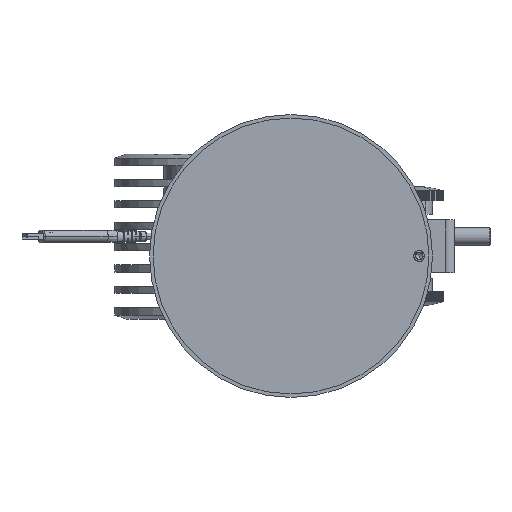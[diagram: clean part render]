
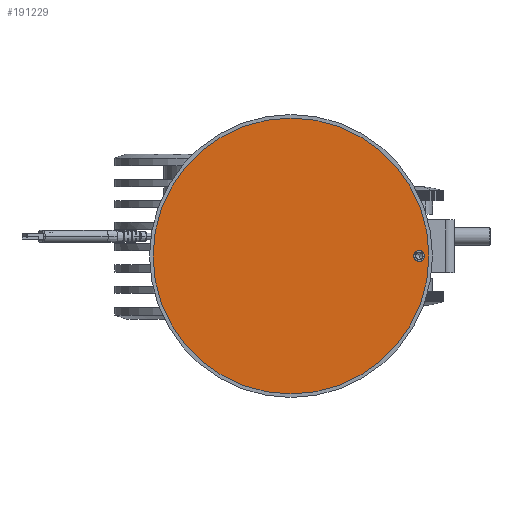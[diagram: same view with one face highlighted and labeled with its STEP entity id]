
A CAD part, front view. The second image highlights one B-rep face of the part: STEP entity #191229.
In plain terms, the highlighted planar face has unit normal (0, -1, 0).
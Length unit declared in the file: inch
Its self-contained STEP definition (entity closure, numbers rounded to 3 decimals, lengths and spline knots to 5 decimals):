
#2006 = VERTEX_POINT ( 'NONE', #40408 ) ;
#2010 = VERTEX_POINT ( 'NONE', #40415 ) ;
#2036 = VERTEX_POINT ( 'NONE', #40470 ) ;
#2049 = VERTEX_POINT ( 'NONE', #40497 ) ;
#8822 = ORIENTED_EDGE ( 'NONE', *, *, #109546, .F. ) ;
#8824 = ORIENTED_EDGE ( 'NONE', *, *, #109592, .F. ) ;
#8826 = ORIENTED_EDGE ( 'NONE', *, *, #109596, .T. ) ;
#8828 = ORIENTED_EDGE ( 'NONE', *, *, #109577, .T. ) ;
#30322 = EDGE_LOOP ( 'NONE', ( #8826, #8828 ) ) ;
#30324 = EDGE_LOOP ( 'NONE', ( #8822, #8824 ) ) ;
#40408 = CARTESIAN_POINT ( 'NONE',  ( 3.44375, -0.44, 0. ) ) ;
#40415 = CARTESIAN_POINT ( 'NONE',  ( 3.75625, -0.44, 0. ) ) ;
#40470 = CARTESIAN_POINT ( 'NONE',  ( -3.875, -0.44, 0. ) ) ;
#40497 = CARTESIAN_POINT ( 'NONE',  ( 3.875, -0.44, 0. ) ) ;
#58203 = AXIS2_PLACEMENT_3D ( 'NONE', #67542, #67543, #67544 ) ;
#59634 = AXIS2_PLACEMENT_3D ( 'NONE', #136119, #136124, #136127 ) ;
#59644 = AXIS2_PLACEMENT_3D ( 'NONE', #136283, #136286, #136291 ) ;
#59648 = AXIS2_PLACEMENT_3D ( 'NONE', #152347, #152349, #152352 ) ;
#59650 = AXIS2_PLACEMENT_3D ( 'NONE', #152358, #152360, #152362 ) ;
#67534 = PLANE ( 'NONE',  #58203 ) ;
#67542 = CARTESIAN_POINT ( 'NONE',  ( 0., -0.44, 0. ) ) ;
#67543 = DIRECTION ( 'NONE',  ( 0., -1., 0. ) ) ;
#67544 = DIRECTION ( 'NONE',  ( 1., 0., 0. ) ) ;
#68435 = FACE_BOUND ( 'NONE', #30324, .T. ) ;
#68443 = FACE_OUTER_BOUND ( 'NONE', #30322, .T. ) ;
#109546 = EDGE_CURVE ( 'NONE', #2006, #2010, #143467, .T. ) ;
#109577 = EDGE_CURVE ( 'NONE', #2036, #2049, #143516, .T. ) ;
#109592 = EDGE_CURVE ( 'NONE', #2010, #2006, #143524, .T. ) ;
#109596 = EDGE_CURVE ( 'NONE', #2049, #2036, #143533, .T. ) ;
#136119 = CARTESIAN_POINT ( 'NONE',  ( 3.6, -0.44, 0. ) ) ;
#136124 = DIRECTION ( 'NONE',  ( 0., -1., 0. ) ) ;
#136127 = DIRECTION ( 'NONE',  ( 1., 0., 0. ) ) ;
#136283 = CARTESIAN_POINT ( 'NONE',  ( 0., -0.44, 0. ) ) ;
#136286 = DIRECTION ( 'NONE',  ( 0., -1., 0. ) ) ;
#136291 = DIRECTION ( 'NONE',  ( 1., 0., 0. ) ) ;
#143467 = CIRCLE ( 'NONE', #59634, 0.15625 ) ;
#143516 = CIRCLE ( 'NONE', #59644, 3.875 ) ;
#143524 = CIRCLE ( 'NONE', #59648, 0.15625 ) ;
#143533 = CIRCLE ( 'NONE', #59650, 3.875 ) ;
#152347 = CARTESIAN_POINT ( 'NONE',  ( 3.6, -0.44, 0. ) ) ;
#152349 = DIRECTION ( 'NONE',  ( 0., -1., 0. ) ) ;
#152352 = DIRECTION ( 'NONE',  ( 1., 0., 0. ) ) ;
#152358 = CARTESIAN_POINT ( 'NONE',  ( 0., -0.44, 0. ) ) ;
#152360 = DIRECTION ( 'NONE',  ( 0., -1., 0. ) ) ;
#152362 = DIRECTION ( 'NONE',  ( 1., 0., 0. ) ) ;
#191229 = ADVANCED_FACE ( 'NONE', ( #68435, #68443 ), #67534, .T. ) ;
